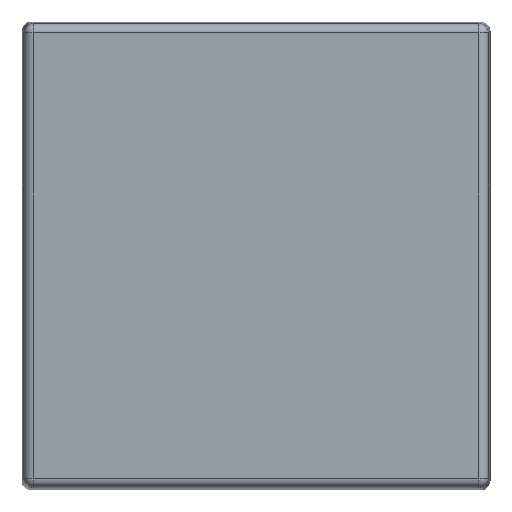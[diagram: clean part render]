
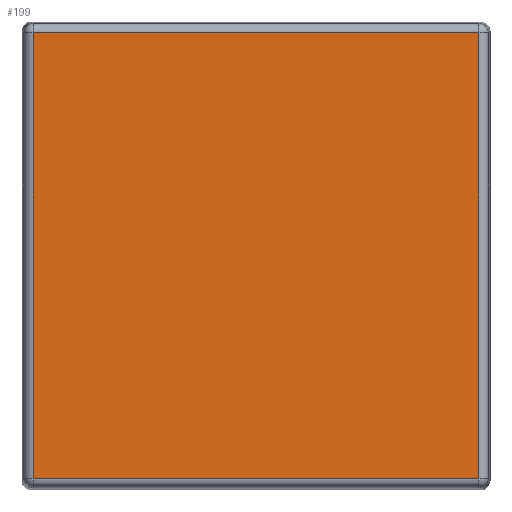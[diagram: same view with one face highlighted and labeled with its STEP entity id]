
A CAD part, top view. The second image highlights one B-rep face of the part: STEP entity #199.
In plain terms, the highlighted planar face has unit normal (0, 0, 1).
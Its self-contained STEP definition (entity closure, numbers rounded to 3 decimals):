
#199=ADVANCED_FACE('',(#265),#247,.T.);
#247=PLANE('',#631);
#265=FACE_OUTER_BOUND('',#300,.T.);
#300=EDGE_LOOP('',(#366,#367,#368,#369));
#366=ORIENTED_EDGE('',*,*,#530,.T.);
#367=ORIENTED_EDGE('',*,*,#531,.T.);
#368=ORIENTED_EDGE('',*,*,#532,.T.);
#369=ORIENTED_EDGE('',*,*,#533,.T.);
#486=VERTEX_POINT('',#919);
#487=VERTEX_POINT('',#920);
#488=VERTEX_POINT('',#922);
#489=VERTEX_POINT('',#924);
#530=EDGE_CURVE('',#486,#487,#590,.T.);
#531=EDGE_CURVE('',#487,#488,#591,.T.);
#532=EDGE_CURVE('',#488,#489,#592,.T.);
#533=EDGE_CURVE('',#489,#486,#593,.T.);
#590=LINE('',#918,#610);
#591=LINE('',#921,#611);
#592=LINE('',#923,#612);
#593=LINE('',#925,#613);
#610=VECTOR('',#721,1.);
#611=VECTOR('',#722,1.);
#612=VECTOR('',#723,1.);
#613=VECTOR('',#724,1.);
#631=AXIS2_PLACEMENT_3D('',#926,#725,#726);
#721=DIRECTION('',(0.,1.,0.));
#722=DIRECTION('',(-1.,0.,0.));
#723=DIRECTION('',(0.,-1.,0.));
#724=DIRECTION('',(1.,0.,0.));
#725=DIRECTION('',(0.,0.,1.));
#726=DIRECTION('',(1.,0.,0.));
#918=CARTESIAN_POINT('',(12.095,12.591,12.5));
#919=CARTESIAN_POINT('',(12.095,-12.095,12.5));
#920=CARTESIAN_POINT('',(12.095,12.095,12.5));
#921=CARTESIAN_POINT('',(-12.591,12.095,12.5));
#922=CARTESIAN_POINT('',(-12.095,12.095,12.5));
#923=CARTESIAN_POINT('',(-12.095,-12.591,12.5));
#924=CARTESIAN_POINT('',(-12.095,-12.095,12.5));
#925=CARTESIAN_POINT('',(12.591,-12.095,12.5));
#926=CARTESIAN_POINT('',(0.,0.,12.5));
